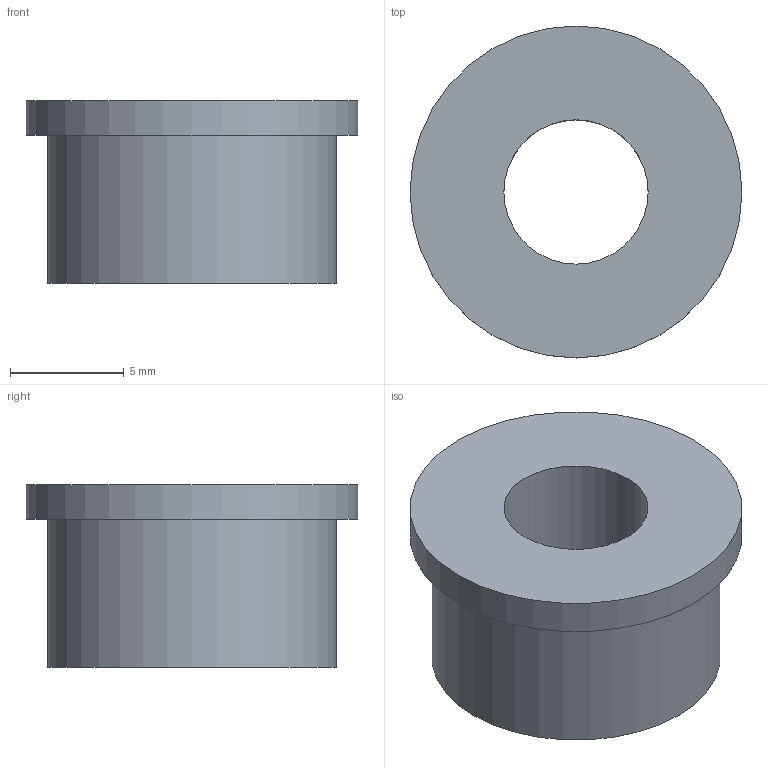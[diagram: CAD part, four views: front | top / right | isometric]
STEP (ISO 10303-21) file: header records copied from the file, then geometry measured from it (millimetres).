
FILE_DESCRIPTION((''),'2;1');
FILE_NAME('C:\Documents and Settings\Powderly\Desktop\EncoderHub.stp','2005-08-09T02:08:09',('Powderly'),(''),'Autodesk Inventor 10','Autodesk Inventor 10','');
FILE_SCHEMA(('AUTOMOTIVE_DESIGN { 1 0 10303 214 1 1 1 1 }'));
Length unit declared in the file: inch
Products named in the file (1): EncoderHub
Bounding box: 14.61 x 14.61 x 8.04 mm (x, y, z)
Volume: 826 mm3; surface area: 762 mm2
Topology: 1 solids, 1 shells, 6 faces, 9 edges, 6 vertices
Faces by surface type: plane 3, cylinder 3
Full cylindrical faces by diameter (mm): 6.35 x1, 12.7 x1, 14.605 x1
Entity records: 153 total; most frequent: DIRECTION 26, CARTESIAN_POINT 19, AXIS2_PLACEMENT_3D 13, ORIENTED_EDGE 12, EDGE_LOOP 12, VERTEX_POINT 6, CIRCLE 6, EDGE_CURVE 6
